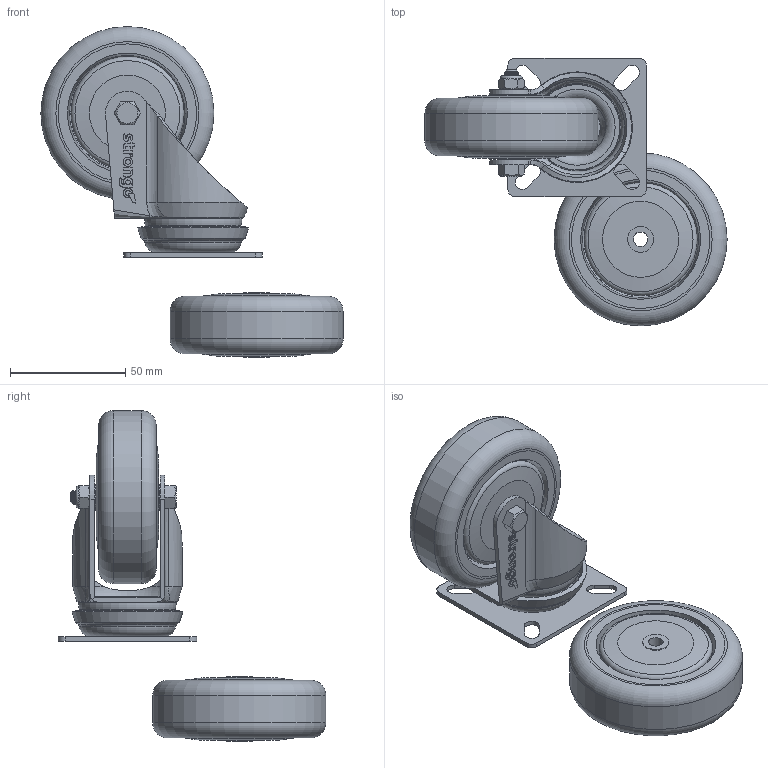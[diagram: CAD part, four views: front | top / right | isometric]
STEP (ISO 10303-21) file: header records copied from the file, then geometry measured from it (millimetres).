
FILE_DESCRIPTION(('STEP AP203'),'1');
FILE_NAME('E:/Pomoc/Strongo/344a39J075rZPC.stp',' ',(' '),(' '),'XStep 1.0',' ',' ');
FILE_SCHEMA(('CONFIG_CONTROL_DESIGN'));
Length unit declared in the file: metre
Products named in the file (4): Assembly63; Assembly64; Assembly174; Assembly214
Bounding box: 131 x 116 x 143.4 mm (x, y, z)
Volume: 312825.5 mm3; surface area: 240623.3 mm2
Topology: 172 solids, 172 shells, 3776 faces, 10347 edges, 6822 vertices
Faces by surface type: plane 2891, cylinder 316, cone 246, sphere 135, torus 102, bspline 86
Full cylindrical faces by diameter (mm): 2.076 x6, 4.014 x3, 5 x2, 6 x30, 6.3 x6, 8.4 x6, 9.8 x3, 10 x9, 10.2 x9, 11.3 x6, 13.4 x6, 13.5 x3, 14 x6, 22.4 x6, 23 x6, 26 x6, 28 x3, 37 x3, 47.4 x6, 49 x6, 60 x6, 75 x3
Entity records: 43710 total; most frequent: CARTESIAN_POINT 12752, ORIENTED_EDGE 6402, DIRECTION 5910, EDGE_CURVE 3201, LINE 2668, VECTOR 2668, VERTEX_POINT 2169, AXIS2_PLACEMENT_3D 1621
